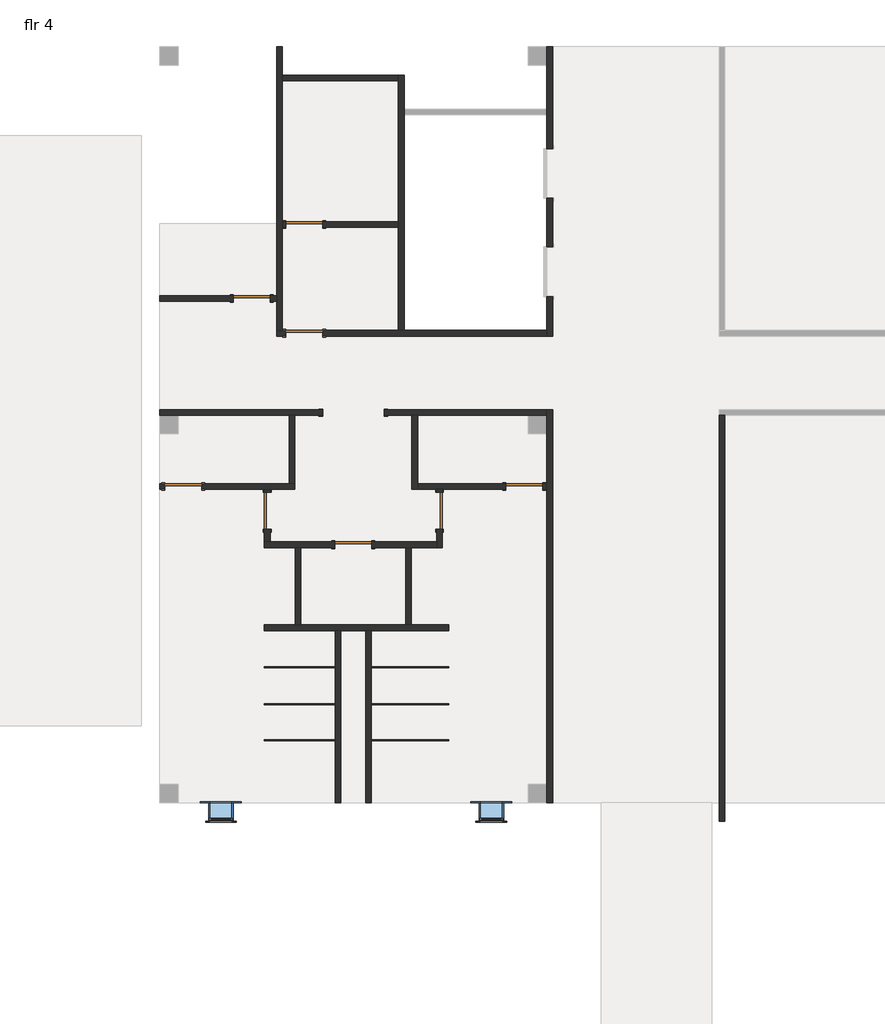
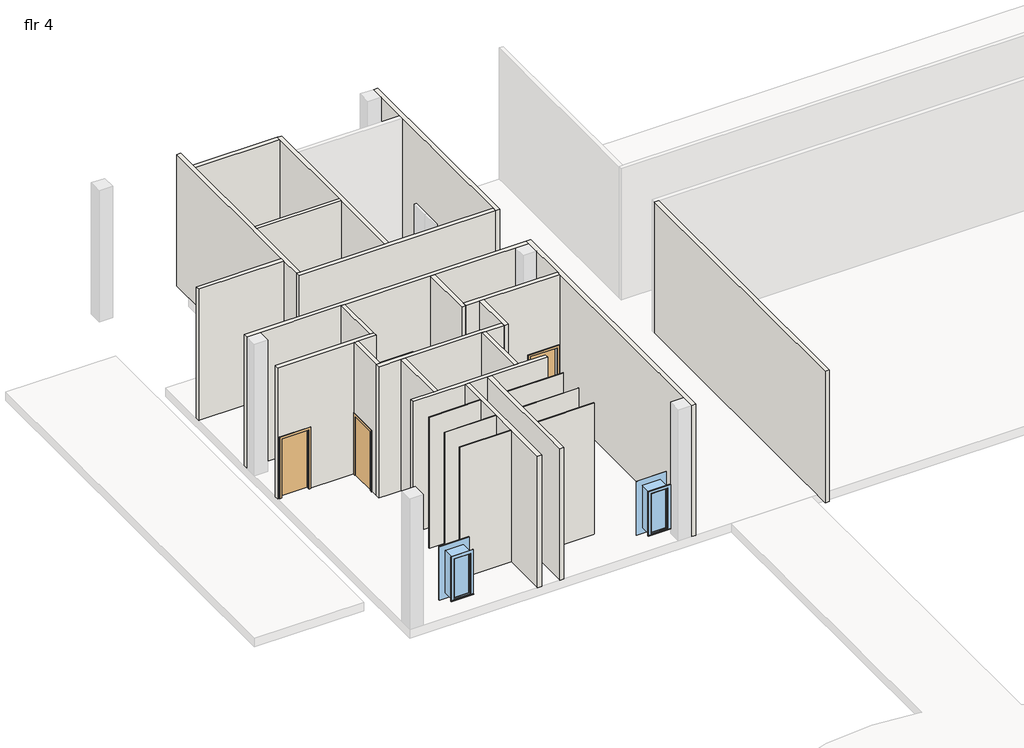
# One storey, part 1 of 2: 28 walls, 9 doors, 2 windows.
"""IFC4 building model written with IfcOpenShell, lengths in millimetres."""

from ifc_helpers import new_model, si_unit, frame, origin, place, context, project, spatial, polyline, outline, extrude, faceted_brep, transform, mapped, element, save
from components import door_df85aeb6, door_c6edcd30, door_9814c99b, fixed_2_x5_0ba76afd

model = new_model("IFC4")

# Units and contexts
model_context = context("Model", 3, world=origin())
ifc_project = project(units=[si_unit("LENGTHUNIT", "METRE", prefix="MILLI")], contexts=[model_context])

# Site, building, storey
site = spatial("IfcSite", under=ifc_project)
building = spatial("IfcBuilding", under=site)
storey = spatial("IfcBuildingStorey", under=building, Name="flr 4", Elevation=14935.2)

# Doors
placement = place(None, origin())
door_shape = door_df85aeb6(model_context)
element("IfcDoor", 1, ObjectType="Cased Opening : 60\" x 84\"", at=placement, inside=storey, context=model_context, shape_type="MappedRepresentation", body=[
    mapped(door_shape, transform((-110751.290902, 34756.8571029, 14935.2), x_axis=(-1.0, 0.0, 0.0), y_axis=(0.0, -1.0, 0.0), z_axis=(0.0, 0.0, 1.0))),
])
door_2_shape = door_c6edcd30(model_context)
element("IfcDoor", 2, ObjectType="Sgl Flush : 36\" x 84\"", at=placement, inside=storey, context=model_context, shape_type="MappedRepresentation", body=[
    mapped(door_2_shape, transform((-113272.240902, 37588.9571029, 14935.2), x_axis=(1.0, 0.0, 0.0), y_axis=(0.0, 1.0, 0.0), z_axis=(0.0, 0.0, 1.0))),
])
element("IfcDoor", 3, ObjectType="Sgl Flush : 36\" x 84\"", at=placement, inside=storey, context=model_context, shape_type="MappedRepresentation", body=[
    mapped(door_2_shape, transform((-112884.890902, 32318.4571029, 14935.2), x_axis=(0.0, 1.0, 0.0), y_axis=(-1.0, 0.0, 0.0), z_axis=(0.0, 0.0, 1.0))),
])
element("IfcDoor", 4, ObjectType="Sgl Flush : 36\" x 84\"", at=placement, inside=storey, context=model_context, shape_type="MappedRepresentation", body=[
    mapped(door_2_shape, transform((-106515.840902, 32928.0571029, 14935.2), x_axis=(1.0, 0.0, 0.0), y_axis=(0.0, 1.0, 0.0), z_axis=(0.0, 0.0, 1.0))),
])
element("IfcDoor", 5, ObjectType="Sgl Flush : 36\" x 84\"", at=placement, inside=storey, context=model_context, shape_type="MappedRepresentation", body=[
    mapped(door_2_shape, transform((-110751.290902, 31480.2571029, 14935.2), x_axis=(1.0, 0.0, 0.0), y_axis=(0.0, 1.0, 0.0), z_axis=(0.0, 0.0, 1.0))),
])
door_3_shape = door_9814c99b(model_context)
element("IfcDoor", 6, ObjectType="Sgl Flush : 36\" x 84\"", at=placement, inside=storey, context=model_context, shape_type="MappedRepresentation", body=[
    mapped(door_3_shape, transform((-111970.490902, 36725.3571029, 14935.2), x_axis=(-1.0, 0.0, 0.0), y_axis=(0.0, -1.0, 0.0), z_axis=(0.0, 0.0, 1.0))),
])
element("IfcDoor", 7, ObjectType="Sgl Flush : 36\" x 84\"", at=placement, inside=storey, context=model_context, shape_type="MappedRepresentation", body=[
    mapped(door_3_shape, transform((-111970.490902, 39417.7571029, 14935.2), x_axis=(-1.0, 0.0, 0.0), y_axis=(0.0, -1.0, 0.0), z_axis=(0.0, 0.0, 1.0))),
])
element("IfcDoor", 8, ObjectType="Sgl Flush : 36\" x 84\"", at=placement, inside=storey, context=model_context, shape_type="MappedRepresentation", body=[
    mapped(door_3_shape, transform((-108617.690902, 32324.8071029, 14935.2), x_axis=(0.0, 1.0, 0.0), y_axis=(-1.0, 0.0, 0.0), z_axis=(0.0, 0.0, 1.0))),
])
element("IfcDoor", 9, ObjectType="Sgl Flush : 36\" x 84\"", at=placement, inside=storey, context=model_context, shape_type="MappedRepresentation", body=[
    mapped(door_3_shape, transform((-114968.0703209, 32928.0571029, 14935.2), x_axis=(-1.0, 0.0, 0.0), y_axis=(0.0, -1.0, 0.0), z_axis=(0.0, 0.0, 1.0))),
])

# Walls
element("IfcWall", 10, ObjectType="Interior - 5 1/2\" Partition (1-hr)", at=placement, inside=storey, context=model_context, shape_type="Brep", body=[
    faceted_brep([(-105810.990902, 25084.2196029, 14935.2), (-105810.990902, 34826.7071029, 14935.2), (-105810.990902, 34826.7071029, 19659.6), (-105810.990902, 25084.2196029, 19659.6), (-105950.690902, 25084.2196029, 14935.2), (-105950.690902, 25084.2196029, 19659.6), (-105950.690902, 32858.2071029, 19659.6), (-105950.690902, 32997.9071029, 19659.6), (-105950.690902, 34687.0071029, 19659.6), (-105950.690902, 34826.7071029, 19659.6), (-105950.690902, 34826.7071029, 14935.2), (-105950.690902, 34687.0071029, 14935.2), (-105950.690902, 32997.9071029, 14935.2), (-105950.690902, 32858.2071029, 14935.2)], [[[0, 1, 2, 3]], [[4, 5, 6, 7, 8, 9, 10, 11, 12, 13]], [[1, 0, 4, 13, 12, 11, 10]], [[3, 2, 9, 8, 7, 6, 5]], [[2, 1, 10, 9]], [[0, 3, 5, 4]]]),
])
element("IfcWall", 11, ObjectType="Interior - 5 1/2\" Partition (1-hr)", at=placement, inside=storey, context=model_context, shape_type="Brep", body=[
    faceted_brep([(-111513.290902, 34826.7071029, 17068.8), (-111513.290902, 34826.7071029, 14935.2), (-115553.8578209, 34826.7071029, 14935.2), (-115553.8578209, 34826.7071029, 19659.6), (-105950.690902, 34826.7071029, 19659.6), (-105950.690902, 34826.7071029, 14935.2), (-109989.290902, 34826.7071029, 14935.2), (-109989.290902, 34826.7071029, 17068.8), (-115553.8578209, 34687.0071029, 14935.2), (-112345.140902, 34687.0071029, 14935.2), (-112205.440902, 34687.0071029, 14935.2), (-111513.290902, 34687.0071029, 14935.2), (-111513.290902, 34687.0071029, 17068.8), (-109989.290902, 34687.0071029, 17068.8), (-109989.290902, 34687.0071029, 14935.2), (-109297.140902, 34687.0071029, 14935.2), (-109157.440902, 34687.0071029, 14935.2), (-105950.690902, 34687.0071029, 14935.2), (-105950.690902, 34687.0071029, 19659.6), (-109157.440902, 34687.0071029, 19659.6), (-109297.140902, 34687.0071029, 19659.6), (-112205.440902, 34687.0071029, 19659.6), (-112345.140902, 34687.0071029, 19659.6), (-115553.8578209, 34687.0071029, 19659.6)], [[[0, 1, 2, 3, 4, 5, 6, 7]], [[8, 9, 10, 11, 12, 13, 14, 15, 16, 17, 18, 19, 20, 21, 22, 23]], [[2, 1, 11, 10, 9, 8]], [[6, 5, 17, 16, 15, 14]], [[4, 3, 23, 22, 21, 20, 19, 18]], [[5, 4, 18, 17]], [[3, 2, 8, 23]], [[12, 11, 1, 0]], [[13, 12, 0, 7]], [[14, 13, 7, 6]]]),
])
element("IfcWall", 12, ObjectType="Interior - 5 1/2\" Partition (1-hr)", at=placement, inside=storey, context=model_context, shape_type="Brep", body=[
    faceted_brep([(-105950.690902, 40071.8071029, 17094.2), (-105950.690902, 40071.8071029, 14935.2), (-105950.690902, 38865.3071029, 14935.2), (-105950.690902, 38865.3071029, 17094.2), (-105950.690902, 37633.4071029, 17094.2), (-105950.690902, 37633.4071029, 14935.2), (-105950.690902, 36795.2071029, 14935.2), (-105950.690902, 36655.5071029, 14935.2), (-105950.690902, 36655.5071029, 19659.6), (-105950.690902, 36795.2071029, 19659.6), (-105950.690902, 42141.9071029, 19659.6), (-105950.690902, 42281.6071029, 19659.6), (-105950.690902, 43832.5946029, 19659.6), (-105950.690902, 43832.5946029, 14935.2), (-105950.690902, 42281.6071029, 14935.2), (-105950.690902, 42141.9071029, 14935.2), (-105950.690902, 41303.7071029, 14935.2), (-105950.690902, 41303.7071029, 17094.2), (-105810.990902, 38865.3071029, 14935.2), (-105810.990902, 40071.8071029, 14935.2), (-105810.990902, 40071.8071029, 17094.2), (-105810.990902, 41303.7071029, 17094.2), (-105810.990902, 41303.7071029, 14935.2), (-105810.990902, 43832.5946029, 14935.2), (-105810.990902, 43832.5946029, 19659.6), (-105810.990902, 36655.5071029, 19659.6), (-105810.990902, 36655.5071029, 14935.2), (-105810.990902, 37633.4071029, 14935.2), (-105810.990902, 37633.4071029, 17094.2), (-105810.990902, 38865.3071029, 17094.2)], [[[0, 1, 2, 3, 4, 5, 6, 7, 8, 9, 10, 11, 12, 13, 14, 15, 16, 17]], [[18, 19, 20, 21, 22, 23, 24, 25, 26, 27, 28, 29]], [[7, 6, 5, 27, 26]], [[2, 1, 19, 18]], [[16, 15, 14, 13, 23, 22]], [[12, 11, 10, 9, 8, 25, 24]], [[8, 7, 26, 25]], [[13, 12, 24, 23]], [[28, 27, 5, 4]], [[29, 28, 4, 3]], [[18, 29, 3, 2]], [[20, 19, 1, 0]], [[21, 20, 0, 17]], [[22, 21, 17, 16]]]),
])
element("IfcWall", 13, ObjectType="Interior - 5 1/2\" Partition (1-hr)", at=placement, inside=storey, context=model_context, shape_type="Brep", body=[
    faceted_brep([(-112427.690902, 36795.2071029, 17068.8), (-112427.690902, 36795.2071029, 14935.2), (-112510.240902, 36795.2071029, 14935.2), (-112649.940902, 36795.2071029, 14935.2), (-112649.940902, 36795.2071029, 19659.6), (-112510.240902, 36795.2071029, 19659.6), (-109633.690902, 36795.2071029, 19659.6), (-109493.990902, 36795.2071029, 19659.6), (-105950.690902, 36795.2071029, 19659.6), (-105950.690902, 36795.2071029, 14935.2), (-109493.990902, 36795.2071029, 14935.2), (-109633.690902, 36795.2071029, 14935.2), (-111513.290902, 36795.2071029, 14935.2), (-111513.290902, 36795.2071029, 17068.8), (-112649.940902, 36655.5071029, 14935.2), (-112427.690902, 36655.5071029, 14935.2), (-112427.690902, 36655.5071029, 17068.8), (-111513.290902, 36655.5071029, 17068.8), (-111513.290902, 36655.5071029, 14935.2), (-105950.690902, 36655.5071029, 14935.2), (-105950.690902, 36655.5071029, 19659.6), (-112649.940902, 36655.5071029, 19659.6)], [[[0, 1, 2, 3, 4, 5, 6, 7, 8, 9, 10, 11, 12, 13]], [[14, 15, 16, 17, 18, 19, 20, 21]], [[3, 2, 1, 15, 14]], [[12, 11, 10, 9, 19, 18]], [[8, 7, 6, 5, 4, 21, 20]], [[4, 3, 14, 21]], [[9, 8, 20, 19]], [[16, 15, 1, 0]], [[17, 16, 0, 13]], [[18, 17, 13, 12]]]),
])
element("IfcWall", 14, ObjectType="Interior - 5 1/2\" Partition (1-hr)", at=placement, inside=storey, context=model_context, shape_type="Brep", body=[
    faceted_brep([(-112510.240902, 36795.2071029, 14935.2), (-112510.240902, 39347.9071029, 14935.2), (-112510.240902, 39487.6071029, 14935.2), (-112510.240902, 42980.1071029, 14935.2), (-112510.240902, 43119.8071029, 14935.2), (-112510.240902, 43832.5946029, 14935.2), (-112510.240902, 43832.5946029, 19659.6), (-112510.240902, 43119.8071029, 19659.6), (-112510.240902, 42980.1071029, 19659.6), (-112510.240902, 39487.6071029, 19659.6), (-112510.240902, 39347.9071029, 19659.6), (-112510.240902, 36795.2071029, 19659.6), (-112649.940902, 36795.2071029, 14935.2), (-112649.940902, 36795.2071029, 19659.6), (-112649.940902, 37519.1071029, 19659.6), (-112649.940902, 37658.8071029, 19659.6), (-112649.940902, 43832.5946029, 19659.6), (-112649.940902, 43832.5946029, 14935.2), (-112649.940902, 37658.8071029, 14935.2), (-112649.940902, 37519.1071029, 14935.2)], [[[0, 1, 2, 3, 4, 5, 6, 7, 8, 9, 10, 11]], [[12, 13, 14, 15, 16, 17, 18, 19]], [[5, 4, 3, 2, 1, 0, 12, 19, 18, 17]], [[11, 10, 9, 8, 7, 6, 16, 15, 14, 13]], [[0, 11, 13, 12]], [[6, 5, 17, 16]]]),
])
element("IfcWall", 15, ObjectType="Interior - 5 1/2\" Partition (1-hr)", at=placement, inside=storey, context=model_context, shape_type="SweptSolid", body=[
    extrude(outline(polyline([(17068.8, -112815.040902), (14935.2, -112815.040902), (14935.2, -112649.940902), (19659.6, -112649.940902), (19659.6, -115553.8578209), (14935.2, -115553.8578209), (14935.2, -113729.440902), (17068.8, -113729.440902), (17068.8, -112815.040902)])), frame((0.0, 37519.1071029, 0.0), z_axis=(0.0, 1.0, 0.0), x_axis=(0.0, 0.0, 1.0)), (0.0, 0.0, 1.0), 139.7),
])
element("IfcWall", 16, ObjectType="Interior - 5 1/2\" Partition (1-hr)", at=placement, inside=storey, context=model_context, shape_type="Brep", body=[
    faceted_brep([(-109493.990902, 36795.2071029, 14935.2), (-109493.990902, 42141.9071029, 14935.2), (-109493.990902, 42281.6071029, 14935.2), (-109493.990902, 43119.8071029, 14935.2), (-109493.990902, 43119.8071029, 19659.6), (-109493.990902, 42281.6071029, 19659.6), (-109493.990902, 42141.9071029, 19659.6), (-109493.990902, 36795.2071029, 19659.6), (-109633.690902, 36795.2071029, 14935.2), (-109633.690902, 36795.2071029, 19659.6), (-109633.690902, 39347.9071029, 19659.6), (-109633.690902, 39487.6071029, 19659.6), (-109633.690902, 42980.1071029, 19659.6), (-109633.690902, 43119.8071029, 19659.6), (-109633.690902, 43119.8071029, 14935.2), (-109633.690902, 42980.1071029, 14935.2), (-109633.690902, 39487.6071029, 14935.2), (-109633.690902, 39347.9071029, 14935.2)], [[[0, 1, 2, 3, 4, 5, 6, 7]], [[8, 9, 10, 11, 12, 13, 14, 15, 16, 17]], [[3, 2, 1, 0, 8, 17, 16, 15, 14]], [[7, 6, 5, 4, 13, 12, 11, 10, 9]], [[4, 3, 14, 13]], [[0, 7, 9, 8]]]),
])
element("IfcWall", 17, ObjectType="Interior - 5 1/2\" Partition (1-hr)", at=placement, inside=storey, context=model_context, shape_type="SweptSolid", body=[
    extrude(outline(polyline([(-112510.240902, 43119.8071029), (-109633.690902, 43119.8071029), (-109633.690902, 42980.1071029), (-112510.240902, 42980.1071029), (-112510.240902, 43119.8071029)])), frame((0.0, 0.0, 14935.2), z_axis=(0.0, 0.0, 1.0), x_axis=(1.0, 0.0, 0.0)), (0.0, 0.0, 1.0), 4724.4),
])
element("IfcWall", 18, ObjectType="Interior - 5 1/2\" Partition (1-hr)", at=placement, inside=storey, context=model_context, shape_type="SweptSolid", body=[
    extrude(outline(polyline([(14935.2, -112510.240902), (14935.2, -112427.690902), (17068.8, -112427.690902), (17068.8, -111513.290902), (14935.2, -111513.290902), (14935.2, -109633.690902), (19659.6, -109633.690902), (19659.6, -112510.240902), (14935.2, -112510.240902)])), frame((0.0, 39347.9071029, 0.0), z_axis=(0.0, 1.0, 0.0), x_axis=(0.0, 0.0, 1.0)), (0.0, 0.0, 1.0), 139.7),
])
element("IfcWall", 19, ObjectType="Interior - 5 1/2\" Partition (1-hr)", at=placement, inside=storey, context=model_context, shape_type="Brep", body=[
    faceted_brep([(-109297.140902, 34687.0071029, 14935.2), (-109297.140902, 32858.2071029, 14935.2), (-109297.140902, 32858.2071029, 19659.6), (-109297.140902, 34687.0071029, 19659.6), (-109157.440902, 34687.0071029, 14935.2), (-109157.440902, 34687.0071029, 19659.6), (-109157.440902, 32997.9071029, 19659.6), (-109157.440902, 32858.2071029, 19659.6), (-109157.440902, 32858.2071029, 14935.2), (-109157.440902, 32997.9071029, 14935.2)], [[[0, 1, 2, 3]], [[4, 5, 6, 7, 8, 9]], [[1, 0, 4, 9, 8]], [[3, 2, 7, 6, 5]], [[2, 1, 8, 7]], [[0, 3, 5, 4]]]),
])
element("IfcWall", 20, ObjectType="Interior - 5 1/2\" Partition (1-hr)", at=placement, inside=storey, context=model_context, shape_type="Brep", body=[
    faceted_brep([(-106058.640902, 32858.2071029, 17068.8), (-106058.640902, 32858.2071029, 14935.2), (-105950.690902, 32858.2071029, 14935.2), (-105950.690902, 32858.2071029, 19659.6), (-108547.840902, 32858.2071029, 19659.6), (-108687.540902, 32858.2071029, 19659.6), (-109157.440902, 32858.2071029, 19659.6), (-109157.440902, 32858.2071029, 14935.2), (-108687.540902, 32858.2071029, 14935.2), (-108547.840902, 32858.2071029, 14935.2), (-106973.040902, 32858.2071029, 14935.2), (-106973.040902, 32858.2071029, 17068.8), (-105950.690902, 32997.9071029, 14935.2), (-106058.640902, 32997.9071029, 14935.2), (-106058.640902, 32997.9071029, 17068.8), (-106973.040902, 32997.9071029, 17068.8), (-106973.040902, 32997.9071029, 14935.2), (-109157.440902, 32997.9071029, 14935.2), (-109157.440902, 32997.9071029, 19659.6), (-105950.690902, 32997.9071029, 19659.6)], [[[0, 1, 2, 3, 4, 5, 6, 7, 8, 9, 10, 11]], [[12, 13, 14, 15, 16, 17, 18, 19]], [[2, 1, 13, 12]], [[10, 9, 8, 7, 17, 16]], [[6, 5, 4, 3, 19, 18]], [[7, 6, 18, 17]], [[3, 2, 12, 19]], [[14, 13, 1, 0]], [[15, 14, 0, 11]], [[16, 15, 11, 10]]]),
])
element("IfcWall", 21, ObjectType="Interior - 5 1/2\" Partition (1-hr)", at=placement, inside=storey, context=model_context, shape_type="Brep", body=[
    faceted_brep([(-115553.8578209, 32858.2071029, 14935.2), (-115425.2703209, 32858.2071029, 14935.2), (-115425.2703209, 32858.2071029, 17068.8), (-114510.8703209, 32858.2071029, 17068.8), (-114510.8703209, 32858.2071029, 14935.2), (-112954.740902, 32858.2071029, 14935.2), (-112815.040902, 32858.2071029, 14935.2), (-112205.440902, 32858.2071029, 14935.2), (-112205.440902, 32858.2071029, 19659.6), (-112815.040902, 32858.2071029, 19659.6), (-112954.740902, 32858.2071029, 19659.6), (-115553.8578209, 32858.2071029, 19659.6), (-115425.2703209, 32997.9071029, 17068.8), (-115425.2703209, 32997.9071029, 14935.2), (-115553.8578209, 32997.9071029, 14935.2), (-115553.8578209, 32997.9071029, 19659.6), (-112345.140902, 32997.9071029, 19659.6), (-112205.440902, 32997.9071029, 19659.6), (-112205.440902, 32997.9071029, 14935.2), (-112345.140902, 32997.9071029, 14935.2), (-114510.8703209, 32997.9071029, 14935.2), (-114510.8703209, 32997.9071029, 17068.8)], [[[0, 1, 2, 3, 4, 5, 6, 7, 8, 9, 10, 11]], [[12, 13, 14, 15, 16, 17, 18, 19, 20, 21]], [[14, 13, 1, 0]], [[20, 19, 18, 7, 6, 5, 4]], [[11, 10, 9, 8, 17, 16, 15]], [[8, 7, 18, 17]], [[0, 11, 15, 14]], [[2, 1, 13, 12]], [[3, 2, 12, 21]], [[4, 3, 21, 20]]]),
])
element("IfcWall", 22, ObjectType="Interior - 5 1/2\" Partition (1-hr)", at=placement, inside=storey, context=model_context, shape_type="SweptSolid", body=[
    extrude(outline(polyline([(-112205.440902, 34687.0071029), (-112205.440902, 32997.9071029), (-112345.140902, 32997.9071029), (-112345.140902, 34687.0071029), (-112205.440902, 34687.0071029)])), frame((0.0, 0.0, 14935.2), z_axis=(0.0, 0.0, 1.0), x_axis=(1.0, 0.0, 0.0)), (0.0, 0.0, 1.0), 4724.4),
])
element("IfcWall", 23, ObjectType="Interior - 5 1/2\" Partition (1-hr)", at=placement, inside=storey, context=model_context, shape_type="Brep", body=[
    faceted_brep([(-108687.540902, 32858.2071029, 14935.2), (-108687.540902, 32782.0071029, 14935.2), (-108687.540902, 32782.0071029, 17068.8), (-108687.540902, 31867.6071029, 17068.8), (-108687.540902, 31867.6071029, 14935.2), (-108687.540902, 31550.1071029, 14935.2), (-108687.540902, 31410.4071029, 14935.2), (-108687.540902, 31410.4071029, 19659.6), (-108687.540902, 31550.1071029, 19659.6), (-108687.540902, 32858.2071029, 19659.6), (-108547.840902, 32782.0071029, 17068.8), (-108547.840902, 32782.0071029, 14935.2), (-108547.840902, 32858.2071029, 14935.2), (-108547.840902, 32858.2071029, 19659.6), (-108547.840902, 31410.4071029, 19659.6), (-108547.840902, 31410.4071029, 14935.2), (-108547.840902, 31867.6071029, 14935.2), (-108547.840902, 31867.6071029, 17068.8)], [[[0, 1, 2, 3, 4, 5, 6, 7, 8, 9]], [[10, 11, 12, 13, 14, 15, 16, 17]], [[12, 11, 1, 0]], [[16, 15, 6, 5, 4]], [[9, 8, 7, 14, 13]], [[7, 6, 15, 14]], [[0, 9, 13, 12]], [[2, 1, 11, 10]], [[3, 2, 10, 17]], [[4, 3, 17, 16]]]),
])
element("IfcWall", 24, ObjectType="Interior - 5 1/2\" Partition (1-hr)", at=placement, inside=storey, context=model_context, shape_type="Brep", body=[
    faceted_brep([(-108687.540902, 31550.1071029, 14935.2), (-110294.090902, 31550.1071029, 14935.2), (-110294.090902, 31550.1071029, 17068.8), (-111208.490902, 31550.1071029, 17068.8), (-111208.490902, 31550.1071029, 14935.2), (-112815.040902, 31550.1071029, 14935.2), (-112954.740902, 31550.1071029, 14935.2), (-112954.740902, 31550.1071029, 19659.6), (-112815.040902, 31550.1071029, 19659.6), (-108687.540902, 31550.1071029, 19659.6), (-110294.090902, 31410.4071029, 17068.8), (-110294.090902, 31410.4071029, 14935.2), (-109449.540902, 31410.4071029, 14935.2), (-109309.840902, 31410.4071029, 14935.2), (-108687.540902, 31410.4071029, 14935.2), (-108687.540902, 31410.4071029, 19659.6), (-109309.840902, 31410.4071029, 19659.6), (-109449.540902, 31410.4071029, 19659.6), (-112053.040902, 31410.4071029, 19659.6), (-112192.740902, 31410.4071029, 19659.6), (-112954.740902, 31410.4071029, 19659.6), (-112954.740902, 31410.4071029, 14935.2), (-112192.740902, 31410.4071029, 14935.2), (-112053.040902, 31410.4071029, 14935.2), (-111208.490902, 31410.4071029, 14935.2), (-111208.490902, 31410.4071029, 17068.8)], [[[0, 1, 2, 3, 4, 5, 6, 7, 8, 9]], [[10, 11, 12, 13, 14, 15, 16, 17, 18, 19, 20, 21, 22, 23, 24, 25]], [[14, 13, 12, 11, 1, 0]], [[24, 23, 22, 21, 6, 5, 4]], [[9, 8, 7, 20, 19, 18, 17, 16, 15]], [[7, 6, 21, 20]], [[0, 9, 15, 14]], [[2, 1, 11, 10]], [[3, 2, 10, 25]], [[4, 3, 25, 24]]]),
])
element("IfcWall", 25, ObjectType="Interior - 5 1/2\" Partition (1-hr)", at=placement, inside=storey, context=model_context, shape_type="Brep", body=[
    faceted_brep([(-110440.140902, 29351.4196029, 14935.2), (-110440.140902, 25084.2196029, 14935.2), (-110440.140902, 25084.2196029, 19659.6), (-110440.140902, 29351.4196029, 19659.6), (-110300.440902, 29351.4196029, 14935.2), (-110300.440902, 29351.4196029, 19659.6), (-110300.440902, 28449.7196029, 19659.6), (-110300.440902, 28424.3196029, 19659.6), (-110300.440902, 27535.3196029, 19659.6), (-110300.440902, 27509.9196029, 19659.6), (-110300.440902, 26646.3196029, 19659.6), (-110300.440902, 26620.9196029, 19659.6), (-110300.440902, 25084.2196029, 19659.6), (-110300.440902, 25084.2196029, 14935.2), (-110300.440902, 26620.9196029, 14935.2), (-110300.440902, 26646.3196029, 14935.2), (-110300.440902, 27509.9196029, 14935.2), (-110300.440902, 27535.3196029, 14935.2), (-110300.440902, 28424.3196029, 14935.2), (-110300.440902, 28449.7196029, 14935.2)], [[[0, 1, 2, 3]], [[4, 5, 6, 7, 8, 9, 10, 11, 12, 13, 14, 15, 16, 17, 18, 19]], [[1, 0, 4, 19, 18, 17, 16, 15, 14, 13]], [[3, 2, 12, 11, 10, 9, 8, 7, 6, 5]], [[0, 3, 5, 4]], [[2, 1, 13, 12]]]),
])
element("IfcWall", 26, ObjectType="Interior - 5 1/2\" Partition (1-hr)", at=placement, inside=storey, context=model_context, shape_type="Brep", body=[
    faceted_brep([(-112961.090902, 29351.4196029, 14935.2), (-111202.140902, 29351.4196029, 14935.2), (-111062.440902, 29351.4196029, 14935.2), (-110440.140902, 29351.4196029, 14935.2), (-110300.440902, 29351.4196029, 14935.2), (-108389.090902, 29351.4196029, 14935.2), (-108389.090902, 29351.4196029, 19659.6), (-110300.440902, 29351.4196029, 19659.6), (-110440.140902, 29351.4196029, 19659.6), (-111062.440902, 29351.4196029, 19659.6), (-111202.140902, 29351.4196029, 19659.6), (-112961.090902, 29351.4196029, 19659.6), (-112961.090902, 29491.1196029, 14935.2), (-112961.090902, 29491.1196029, 19659.6), (-112192.740902, 29491.1196029, 19659.6), (-112053.040902, 29491.1196029, 19659.6), (-109449.540902, 29491.1196029, 19659.6), (-109309.840902, 29491.1196029, 19659.6), (-108389.090902, 29491.1196029, 19659.6), (-108389.090902, 29491.1196029, 14935.2), (-109309.840902, 29491.1196029, 14935.2), (-109449.540902, 29491.1196029, 14935.2), (-112053.040902, 29491.1196029, 14935.2), (-112192.740902, 29491.1196029, 14935.2)], [[[0, 1, 2, 3, 4, 5, 6, 7, 8, 9, 10, 11]], [[12, 13, 14, 15, 16, 17, 18, 19, 20, 21, 22, 23]], [[5, 4, 3, 2, 1, 0, 12, 23, 22, 21, 20, 19]], [[6, 5, 19, 18]], [[11, 10, 9, 8, 7, 6, 18, 17, 16, 15, 14, 13]], [[0, 11, 13, 12]]]),
])
element("IfcWall", 27, ObjectType="Interior - 5 1/2\" Partition (1-hr)", at=placement, inside=storey, context=model_context, shape_type="SweptSolid", body=[
    extrude(outline(polyline([(-109309.840902, 31410.4071029), (-109309.840902, 29491.1196029), (-109449.540902, 29491.1196029), (-109449.540902, 31410.4071029), (-109309.840902, 31410.4071029)])), frame((0.0, 0.0, 14935.2), z_axis=(0.0, 0.0, 1.0), x_axis=(1.0, 0.0, 0.0)), (0.0, 0.0, 1.0), 4724.4),
])
element("IfcWall", 28, ObjectType="Interior - 5 1/2\" Partition (1-hr)", at=placement, inside=storey, context=model_context, shape_type="Brep", body=[
    faceted_brep([(-111202.140902, 29351.4196029, 14935.2), (-111202.140902, 28449.7196029, 14935.2), (-111202.140902, 28424.3196029, 14935.2), (-111202.140902, 27535.3196029, 14935.2), (-111202.140902, 27509.9196029, 14935.2), (-111202.140902, 26646.3196029, 14935.2), (-111202.140902, 26620.9196029, 14935.2), (-111202.140902, 25084.2196029, 14935.2), (-111202.140902, 25084.2196029, 19659.6), (-111202.140902, 26620.9196029, 19659.6), (-111202.140902, 26646.3196029, 19659.6), (-111202.140902, 27509.9196029, 19659.6), (-111202.140902, 27535.3196029, 19659.6), (-111202.140902, 28424.3196029, 19659.6), (-111202.140902, 28449.7196029, 19659.6), (-111202.140902, 29351.4196029, 19659.6), (-111062.440902, 29351.4196029, 14935.2), (-111062.440902, 29351.4196029, 19659.6), (-111062.440902, 25084.2196029, 19659.6), (-111062.440902, 25084.2196029, 14935.2)], [[[0, 1, 2, 3, 4, 5, 6, 7, 8, 9, 10, 11, 12, 13, 14, 15]], [[16, 17, 18, 19]], [[7, 6, 5, 4, 3, 2, 1, 0, 16, 19]], [[15, 14, 13, 12, 11, 10, 9, 8, 18, 17]], [[0, 15, 17, 16]], [[8, 7, 19, 18]]]),
])
element("IfcWall", 29, ObjectType="Interior - 5 1/2\" Partition (1-hr)", at=placement, inside=storey, context=model_context, shape_type="SweptSolid", body=[
    extrude(outline(polyline([(32858.2071029, 14935.2), (32775.6571029, 14935.2), (32775.6571029, 17068.8), (31861.2571029, 17068.8), (31861.2571029, 14935.2), (31550.1071029, 14935.2), (31550.1071029, 19659.6), (32858.2071029, 19659.6), (32858.2071029, 14935.2)])), frame((-112954.740902, 0.0, 0.0), z_axis=(1.0, 0.0, 0.0), x_axis=(0.0, 1.0, 0.0)), (0.0, 0.0, 1.0), 139.7),
])
element("IfcWall", 30, ObjectType="Interior - 5 1/2\" Partition (1-hr)", at=placement, inside=storey, context=model_context, shape_type="SweptSolid", body=[
    extrude(outline(polyline([(-112192.740902, 29491.1196029), (-112192.740902, 31410.4071029), (-112053.040902, 31410.4071029), (-112053.040902, 29491.1196029), (-112192.740902, 29491.1196029)])), frame((0.0, 0.0, 14935.2), z_axis=(0.0, 0.0, 1.0), x_axis=(1.0, 0.0, 0.0)), (0.0, 0.0, 1.0), 4724.4),
])
element("IfcWall", 31, ObjectType="Interior - 5 1/2\" Partition (1-hr)", at=placement, inside=storey, context=model_context, shape_type="Brep", body=[
    faceted_brep([(-101677.140902, 34687.0071029, 14935.2), (-101677.140902, 24630.1946029, 14935.2), (-101677.140902, 24630.1946029, 19659.6), (-101677.140902, 34687.0071029, 19659.6), (-101537.440902, 34687.0071029, 14935.2), (-101537.440902, 34687.0071029, 19659.6), (-101537.440902, 24630.1946029, 19659.6), (-101537.440902, 24630.1946029, 14935.2), (-101553.6574925, 24630.1946029, 19659.6)], [[[0, 1, 2, 3]], [[4, 5, 6, 7]], [[1, 0, 4, 7]], [[3, 2, 8, 6, 5]], [[2, 1, 7, 6, 8]], [[0, 3, 5, 4]]]),
])
element("IfcWall", 32, ObjectType="toilet partition - 1\"", at=placement, inside=storey, context=model_context, shape_type="SweptSolid", body=[
    extrude(outline(polyline([(-108389.090902, 26620.9196029), (-110300.440902, 26620.9196029), (-110300.440902, 26646.3196029), (-108389.090902, 26646.3196029), (-108389.090902, 26620.9196029)])), frame((0.0, 0.0, 14935.2), z_axis=(0.0, 0.0, 1.0), x_axis=(1.0, 0.0, 0.0)), (0.0, 0.0, 1.0), 4724.4),
])
element("IfcWall", 33, ObjectType="toilet partition - 1\"", at=placement, inside=storey, context=model_context, shape_type="SweptSolid", body=[
    extrude(outline(polyline([(-108389.090902, 27509.9196029), (-110300.440902, 27509.9196029), (-110300.440902, 27535.3196029), (-108389.090902, 27535.3196029), (-108389.090902, 27509.9196029)])), frame((0.0, 0.0, 14935.2), z_axis=(0.0, 0.0, 1.0), x_axis=(1.0, 0.0, 0.0)), (0.0, 0.0, 1.0), 4724.4),
])
element("IfcWall", 34, ObjectType="toilet partition - 1\"", at=placement, inside=storey, context=model_context, shape_type="SweptSolid", body=[
    extrude(outline(polyline([(-108389.090902, 28424.3196029), (-110300.440902, 28424.3196029), (-110300.440902, 28449.7196029), (-108389.090902, 28449.7196029), (-108389.090902, 28424.3196029)])), frame((0.0, 0.0, 14935.2), z_axis=(0.0, 0.0, 1.0), x_axis=(1.0, 0.0, 0.0)), (0.0, 0.0, 1.0), 4724.4),
])
element("IfcWall", 35, ObjectType="toilet partition - 1\"", at=placement, inside=storey, context=model_context, shape_type="SweptSolid", body=[
    extrude(outline(polyline([(-112961.090902, 28449.7196029), (-111202.140902, 28449.7196029), (-111202.140902, 28424.3196029), (-112961.090902, 28424.3196029), (-112961.090902, 28449.7196029)])), frame((0.0, 0.0, 14935.2), z_axis=(0.0, 0.0, 1.0), x_axis=(1.0, 0.0, 0.0)), (0.0, 0.0, 1.0), 4724.4),
])
element("IfcWall", 36, ObjectType="toilet partition - 1\"", at=placement, inside=storey, context=model_context, shape_type="SweptSolid", body=[
    extrude(outline(polyline([(-112961.090902, 27535.3196029), (-111202.140902, 27535.3196029), (-111202.140902, 27509.9196029), (-112961.090902, 27509.9196029), (-112961.090902, 27535.3196029)])), frame((0.0, 0.0, 14935.2), z_axis=(0.0, 0.0, 1.0), x_axis=(1.0, 0.0, 0.0)), (0.0, 0.0, 1.0), 4724.4),
])
element("IfcWall", 37, ObjectType="toilet partition - 1\"", at=placement, inside=storey, context=model_context, shape_type="SweptSolid", body=[
    extrude(outline(polyline([(-112961.090902, 26646.3196029), (-111202.140902, 26646.3196029), (-111202.140902, 26620.9196029), (-112961.090902, 26620.9196029), (-112961.090902, 26646.3196029)])), frame((0.0, 0.0, 14935.2), z_axis=(0.0, 0.0, 1.0), x_axis=(1.0, 0.0, 0.0)), (0.0, 0.0, 1.0), 4724.4),
])

# Windows
fixed_2_x5_shape = fixed_2_x5_0ba76afd(model_context)
element("IfcWindow", 38, ObjectType="Fixed : 2'x5'", at=placement, inside=storey, context=model_context, shape_type="MappedRepresentation", body=[
    mapped(fixed_2_x5_shape, transform((-107366.740902, 24857.2071029, 14935.2), x_axis=(-1.0, 0.0, 0.0), y_axis=(0.0, -1.0, 0.0), z_axis=(0.0, 0.0, 1.0))),
])
element("IfcWindow", 39, ObjectType="Fixed : 2'x5'", at=placement, inside=storey, context=model_context, shape_type="MappedRepresentation", body=[
    mapped(fixed_2_x5_shape, transform((-114072.340902, 24857.2071029, 14935.2), x_axis=(-1.0, 0.0, 0.0), y_axis=(0.0, -1.0, 0.0), z_axis=(0.0, 0.0, 1.0))),
])

save(model, "model.ifc")
